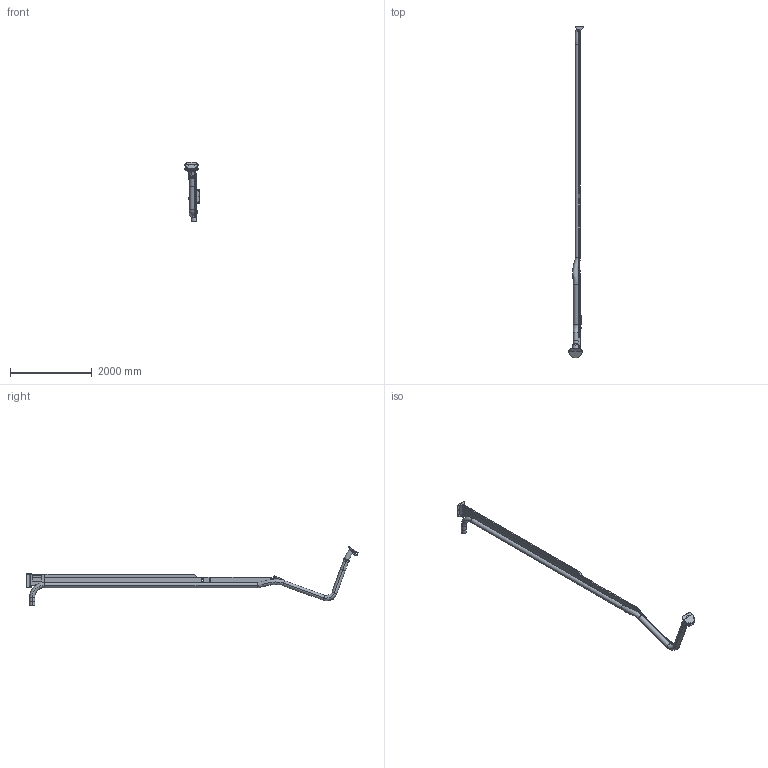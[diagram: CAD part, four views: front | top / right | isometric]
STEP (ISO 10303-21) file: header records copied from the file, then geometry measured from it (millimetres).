
FILE_DESCRIPTION((''),'2;1');
FILE_NAME('PR9000-125','2018-10-01T',('Gustav Stenberg'),(''),'CREO PARAMETRIC BY PTC INC, 2016130','CREO PARAMETRIC BY PTC INC, 2016130','');
FILE_SCHEMA(('AUTOMOTIVE_DESIGN { 1 0 10303 214 1 1 1 1 }'));
Length unit declared in the file: millimetre
Products named in the file (60): 100-6338-01; 100-6325-03; 100-6325-05; 100-6300-03; 100-6338; 100-6326-01; 100-6309-1; 100-6309-3; 100-6326; 100-6334-01; 100-6336-04; 100-6336-02; 100-6325-01; 100-6336-01; 100-6333-01; 100-6333-02; 100-6308-3; 100184; 100-6333; 100068; 102683; 100-5506_L_LIGHT; 100-5506_R_LIGHT; 100-5506; 100-5404-L_LIGHT; 100-5404-R_LIGHT; 100-5404; 100-5914; 100-5913; 100-5915; 135085; 102679; 100-5512-L_LIGHT; 100-512-R_LIGHT; 100-5512; 122219; 102715; 100-5911; 100-5518; 100-6305-2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
Assembly tree (68 placements, depth 5):
  PR9000-125
    100068
      100-6338
        100-6338-01
        100-6325-03  x2
        100-6325-05
        100-6300-03
      100-6326
        100-6326-01  x2
        100-6309-1
        100-6309-3
      100-6336-01
        100-6334-01
        100-6336-04  x2
        100-6336-02
        100-6325-03
        100-6325-05
        100-6325-01
      100-6333
        100184
          100-6333-01
          100-6333-02
          100-6308-3
    134112
      135085
        102683
        100-5506
          100-5506_L_LIGHT
          100-5506_R_LIGHT
        100-5404
          100-5404-L_LIGHT
          100-5404-R_LIGHT
        100-5915  x2
          100-5914
          100-5913
      122219
        102679
        100-5512
          100-5512-L_LIGHT
          100-512-R_LIGHT
      100-5518
        102715
        100-5911
      100-6305
        100-6305-2
        100-6305-1
        100-5911
    100-5721_LIGHT
    100-6341-125
      100-5822_LIGHT
      100-5862A_LIGHT
      100-5865A_LIGHT
      126055_AF2
    130368
      135584
      STAB_K4-D4
    102118-REF
    130371
      135588
      STAB_K4-D4
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Bounding box: 352.95 x 8111.06 x 1442.97 mm (x, y, z)
Volume: 51954150 mm3; surface area: 11671318.7 mm2
Topology: 53 solids, 54 shells, 1270 faces, 3067 edges, 1900 vertices
Faces by surface type: plane 484, cylinder 431, cone 146, bspline 102, torus 77, sphere 26, extrusion 4
Entity records: 58388 total; most frequent: CARTESIAN_POINT 13833, DIRECTION 5379, ORIENTED_EDGE 4952, PROPERTY_DEFINITION 2558, REPRESENTATION 2518, PROPERTY_DEFINITION_REPRESENTATION 2518, EDGE_CURVE 2476, AXIS2_PLACEMENT_3D 2115
